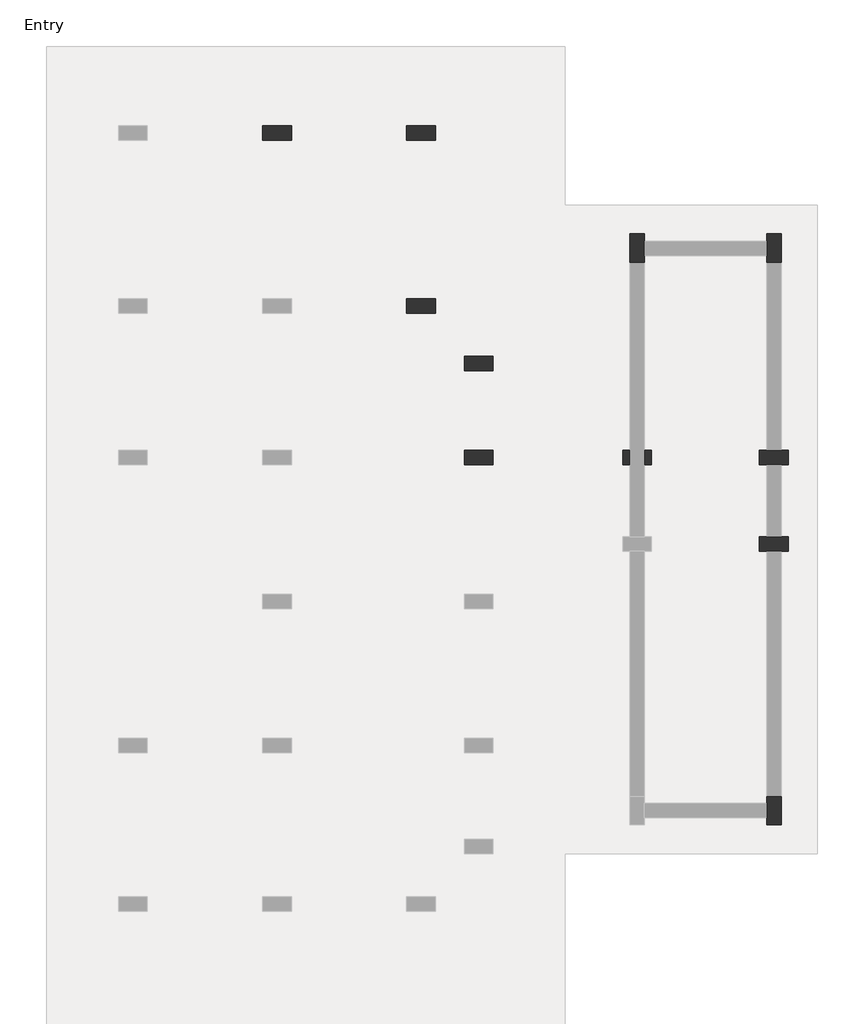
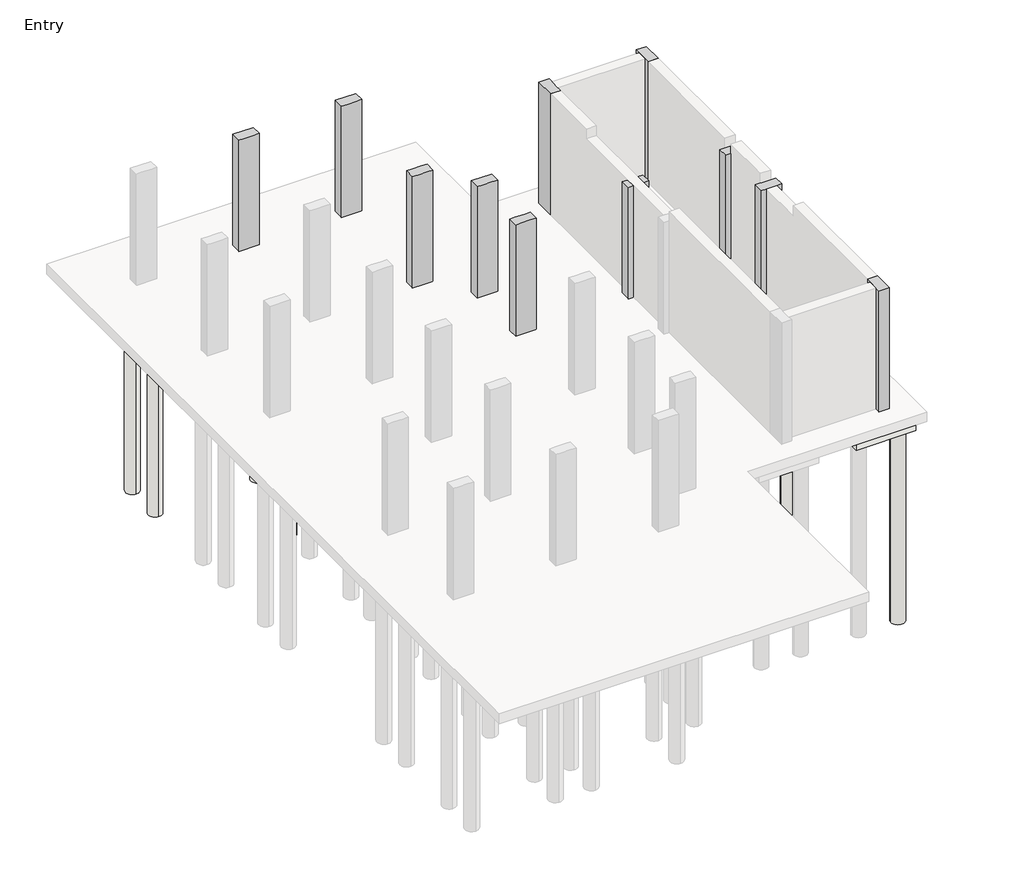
# One storey, part 3 of 3: 36 slabs, 11 columns.
"""IFC4 building model written with IfcOpenShell, lengths in millimetres."""

from ifc_helpers import new_model, si_unit, point, frame, frame_2d, origin, origin_with_axes, place, context, project, spatial, polyline, circle_curve, trimmed, segment, composite_curve, outline, extrude, faceted_brep, element, save

model = new_model("IFC4")

# Units and contexts
model_context = context("Model", 3, world=origin())
ifc_project = project(units=[si_unit("LENGTHUNIT", "METRE", prefix="MILLI")], contexts=[model_context])

# Site, building, storey
site = spatial("IfcSite", under=ifc_project)
building = spatial("IfcBuilding", under=site)
storey = spatial("IfcBuildingStorey", under=building, Name="Entry", Elevation=0.0)

# Columns
placement = place(None, origin())
element("IfcColumn", 1, ObjectType="Concrete-Rectangular-Column : 12 x 24", at=placement, inside=storey, context=model_context, shape_type="Brep", body=[
    faceted_brep([(-10423.1073204, 23769.0572372, 0.0), (-9813.5073204, 23769.0572372, 0.0), (-9813.5073204, 23464.2572372, 0.0), (-10423.1073204, 23464.2572372, 0.0), (-10423.1073204, 23769.0572372, 3505.2), (-9813.5073204, 23769.0572372, 3505.2), (-9813.5073204, 23769.0572372, 2895.6), (-10423.1073204, 23769.0572372, 2895.6), (-9813.5073204, 23464.2572372, 3505.2), (-9813.5073204, 23464.2572372, 2895.6), (-9965.9073204, 23464.2572372, 3505.2), (-10270.7073204, 23464.2572372, 3505.2), (-10423.1073204, 23464.2572372, 3505.2), (-10423.1073204, 23464.2572372, 2895.6)], [[[0, 1, 2, 3]], [[4, 5, 6, 1, 0, 7]], [[5, 8, 9, 2, 1, 6]], [[8, 10, 11, 12, 13, 3, 2, 9]], [[12, 4, 7, 0, 3, 13]], [[4, 12, 11, 10, 8, 5]]]),
])
element("IfcColumn", 2, ObjectType="Concrete-Rectangular-Column : 12 x 24", at=placement, inside=storey, context=model_context, shape_type="Brep", body=[
    faceted_brep([(-7375.1073204, 23769.0572372, 0.0), (-6765.5073204, 23769.0572372, 0.0), (-6765.5073204, 23464.2572372, 0.0), (-7375.1073204, 23464.2572372, 0.0), (-7375.1073204, 23769.0572372, 3505.2), (-6765.5073204, 23769.0572372, 3505.2), (-7375.1073204, 23769.0572372, 2895.6), (-6765.5073204, 23464.2572372, 3505.2), (-6917.9073204, 23464.2572372, 3505.2), (-7222.7073204, 23464.2572372, 3505.2), (-7375.1073204, 23464.2572372, 3505.2), (-7375.1073204, 23464.2572372, 2895.6)], [[[0, 1, 2, 3]], [[4, 5, 1, 0, 6]], [[5, 7, 2, 1]], [[7, 8, 9, 10, 11, 3, 2]], [[10, 4, 6, 0, 3, 11]], [[4, 10, 9, 8, 7, 5]]]),
])
element("IfcColumn", 3, ObjectType="Concrete-Rectangular-Column : 12 x 24", at=placement, inside=storey, context=model_context, shape_type="Brep", body=[
    faceted_brep([(-7375.1073204, 20111.4572372, 0.0), (-6765.5073204, 20111.4572372, 0.0), (-6765.5073204, 19806.6572372, 0.0), (-7375.1073204, 19806.6572372, 0.0), (-7375.1073204, 20111.4572372, 3505.2), (-7222.7073204, 20111.4572372, 3505.2), (-6917.9073204, 20111.4572372, 3505.2), (-6765.5073204, 20111.4572372, 3505.2), (-7375.1073204, 20111.4572372, 2895.6), (-6765.5073204, 19806.6572372, 3505.2), (-6917.9073204, 19806.6572372, 3505.2), (-7222.7073204, 19806.6572372, 3505.2), (-7375.1073204, 19806.6572372, 3505.2), (-7375.1073204, 19806.6572372, 2895.6)], [[[0, 1, 2, 3]], [[4, 5, 6, 7, 1, 0, 8]], [[7, 9, 2, 1]], [[9, 10, 11, 12, 13, 3, 2]], [[12, 4, 8, 0, 3, 13]], [[4, 12, 11, 10, 9, 7, 6, 5]]]),
])
element("IfcColumn", 4, ObjectType="Concrete-Rectangular-Column : 12 x 24", at=placement, inside=storey, context=model_context, shape_type="Brep", body=[
    faceted_brep([(-6156.6500241, 18892.9999409, 0.0), (-5547.0500241, 18892.9999409, 0.0), (-5547.0500241, 18588.1999409, 0.0), (-6156.6500241, 18588.1999409, 0.0), (-6156.6500241, 18892.9999409, 3505.2), (-5547.0500241, 18892.9999409, 3505.2), (-6156.6500241, 18892.9999409, 2895.6), (-5547.0500241, 18588.1999409, 3505.2), (-5699.4500241, 18588.1999409, 3505.2), (-6004.2500241, 18588.1999409, 3505.2), (-6156.6500241, 18588.1999409, 3505.2), (-6156.6500241, 18588.1999409, 2895.6)], [[[0, 1, 2, 3]], [[4, 5, 1, 0, 6]], [[5, 7, 2, 1]], [[7, 8, 9, 10, 11, 3, 2]], [[10, 4, 6, 0, 3, 11]], [[4, 10, 9, 8, 7, 5]]]),
])
element("IfcColumn", 5, ObjectType="Concrete-Rectangular-Column : 12 x 24", at=placement, inside=storey, context=model_context, shape_type="Brep", body=[
    faceted_brep([(-6156.6500241, 16911.0572372, 0.0), (-5547.0500241, 16911.0572372, 0.0), (-5547.0500241, 16606.2572372, 0.0), (-6156.6500241, 16606.2572372, 0.0), (-6156.6500241, 16911.0572372, 3505.2), (-6004.2500241, 16911.0572372, 3505.2), (-5699.4500241, 16911.0572372, 3505.2), (-5547.0500241, 16911.0572372, 3505.2), (-5547.0500241, 16911.0572372, 2895.6), (-6156.6500241, 16911.0572372, 2895.6), (-5547.0500241, 16606.2572372, 3505.2), (-5547.0500241, 16606.2572372, 2895.6), (-5699.4500241, 16606.2572372, 3505.2), (-6004.2500241, 16606.2572372, 3505.2), (-6156.6500241, 16606.2572372, 3505.2), (-6156.6500241, 16606.2572372, 2895.6)], [[[0, 1, 2, 3]], [[4, 5, 6, 7, 8, 1, 0, 9]], [[7, 10, 11, 2, 1, 8]], [[10, 12, 13, 14, 15, 3, 2, 11]], [[14, 4, 9, 0, 3, 15]], [[4, 14, 13, 12, 10, 7, 6, 5]]]),
])
element("IfcColumn", 6, ObjectType="Concrete-Rectangular-Column : 12 x 24", at=placement, inside=storey, context=model_context, shape_type="SweptSolid", body=[
    extrude(outline(polyline([(-2803.8500241, 16606.2572372), (-2803.8500241, 16911.0572372), (-2651.4500241, 16911.0572372), (-2651.4500241, 16606.2572372), (-2803.8500241, 16606.2572372)])), origin_with_axes(), (0.0, 0.0, 1.0), 3505.2),
    extrude(outline(polyline([(-2194.2500241, 16911.0572372), (-2194.2500241, 16606.2572372), (-2346.6500241, 16606.2572372), (-2346.6500241, 16911.0572372), (-2194.2500241, 16911.0572372)])), origin_with_axes(), (0.0, 0.0, 1.0), 3505.2),
])
element("IfcColumn", 7, ObjectType="Concrete-Rectangular-Column : 12 x 24", at=placement, inside=storey, context=model_context, shape_type="Brep", body=[
    faceted_brep([(89.9860546, 16911.0572372, 0.0), (242.3860546, 16911.0572372, 0.0), (547.1860546, 16911.0572372, 0.0), (699.5860546, 16911.0572372, 0.0), (699.5860546, 16606.2572372, 0.0), (547.1860546, 16606.2572372, 0.0), (242.3860546, 16606.2572372, 0.0), (89.9860546, 16606.2572372, 0.0), (89.9860546, 16911.0572372, 3505.2), (699.5860546, 16911.0572372, 3505.2), (699.5860546, 16606.2572372, 3505.2), (89.9860546, 16606.2572372, 3505.2)], [[[0, 1, 2, 3, 4, 5, 6, 7]], [[3, 2, 1, 0, 8, 9]], [[4, 3, 9, 10]], [[7, 6, 5, 4, 10, 11]], [[0, 7, 11, 8]], [[9, 8, 11, 10]]]),
])
element("IfcColumn", 8, ObjectType="Concrete-Rectangular-Column : 12 x 24", at=placement, inside=storey, context=model_context, shape_type="Brep", body=[
    faceted_brep([(89.9860546, 15082.2572372, 0.0), (242.3860546, 15082.2572372, 0.0), (547.1860546, 15082.2572372, 0.0), (699.5860546, 15082.2572372, 0.0), (699.5860546, 14777.4572372, 0.0), (547.1860546, 14777.4572372, 0.0), (242.3860546, 14777.4572372, 0.0), (89.9860546, 14777.4572372, 0.0), (89.9860546, 15082.2572372, 3505.2), (699.5860546, 15082.2572372, 3505.2), (699.5860546, 14777.4572372, 3505.2), (547.1860546, 14777.4572372, 3505.2), (242.3860546, 14777.4572372, 3505.2), (89.9860546, 14777.4572372, 3505.2)], [[[0, 1, 2, 3, 4, 5, 6, 7]], [[3, 2, 1, 0, 8, 9]], [[4, 3, 9, 10]], [[7, 6, 5, 4, 10, 11, 12, 13]], [[0, 7, 13, 8]], [[9, 8, 13, 12, 11, 10]]]),
])
element("IfcColumn", 9, ObjectType="Concrete-Rectangular-Column : 12 x 24", at=placement, inside=storey, context=model_context, shape_type="Brep", body=[
    faceted_brep([(-2346.6500241, 21483.0572372, 0.0), (-2346.6500241, 21330.6572372, 0.0), (-2346.6500241, 21025.8572372, 0.0), (-2346.6500241, 20873.4572372, 0.0), (-2651.4500241, 20873.4572372, 0.0), (-2651.4500241, 21483.0572372, 0.0), (-2346.6500241, 21483.0572372, 3810.0), (-2346.6500241, 21330.6572372, 3810.0), (-2346.6500241, 21025.8572372, 3810.0), (-2346.6500241, 20873.4572372, 3810.0), (-2651.4500241, 20873.4572372, 3810.0), (-2651.4500241, 21483.0572372, 3810.0)], [[[0, 1, 2, 3, 4, 5]], [[6, 7, 8, 9, 3, 2, 1, 0]], [[9, 10, 4, 3]], [[10, 11, 5, 4]], [[11, 6, 0, 5]], [[6, 11, 10, 9, 8, 7]]]),
])
element("IfcColumn", 10, ObjectType="Concrete-Rectangular-Column : 12 x 24", at=placement, inside=storey, context=model_context, shape_type="Brep", body=[
    faceted_brep([(547.1860546, 21483.0572372, 0.0), (547.1860546, 20873.4572372, 0.0), (242.3860546, 20873.4572372, 0.0), (242.3860546, 21025.8572372, 0.0), (242.3860546, 21330.6572372, 0.0), (242.3860546, 21483.0572372, 0.0), (547.1860546, 21483.0572372, 3810.0), (547.1860546, 20873.4572372, 3810.0), (242.3860546, 20873.4572372, 3810.0), (242.3860546, 21025.8572372, 3810.0), (242.3860546, 21330.6572372, 3810.0), (242.3860546, 21483.0572372, 3810.0)], [[[0, 1, 2, 3, 4, 5]], [[1, 0, 6, 7]], [[2, 1, 7, 8]], [[5, 4, 3, 2, 8, 9, 10, 11]], [[0, 5, 11, 6]], [[7, 6, 11, 10, 9, 8]]]),
])
element("IfcColumn", 11, ObjectType="Concrete-Rectangular-Column : 12 x 24", at=placement, inside=storey, context=model_context, shape_type="Brep", body=[
    faceted_brep([(547.1860546, 9595.8572372, 0.0), (547.1860546, 8986.2572372, 0.0), (242.3860546, 8986.2572372, 0.0), (242.3860546, 9138.6572372, 0.0), (242.3860546, 9443.4572372, 0.0), (242.3860546, 9595.8572372, 0.0), (547.1860546, 9595.8572372, 3810.0), (547.1860546, 8986.2572372, 3810.0), (242.3860546, 8986.2572372, 3810.0), (242.3860546, 9138.6572372, 3810.0), (242.3860546, 9443.4572372, 3810.0), (242.3860546, 9595.8572372, 3810.0)], [[[0, 1, 2, 3, 4, 5]], [[6, 7, 1, 0]], [[7, 8, 2, 1]], [[8, 9, 10, 11, 5, 4, 3, 2]], [[11, 6, 0, 5]], [[6, 11, 10, 9, 8, 7]]]),
])

# Slabs
element("IfcSlab", 12, ObjectType="Pile Cap-2 Pile : 31\"x61\"x35\"", at=placement, inside=storey, context=model_context, shape_type="SweptSolid", body=[
    extrude(outline(polyline([(-13572.7073204, 24505.6572372), (-12759.9073204, 24505.6572372), (-12759.9073204, 22727.6572372), (-13572.7073204, 22727.6572372), (-13572.7073204, 24505.6572372)])), frame((0.0, 0.0, -889.0), z_axis=(0.0, 0.0, 1.0), x_axis=(1.0, 0.0, 0.0)), (0.0, 0.0, 1.0), 584.2),
])
element("IfcSlab", 13, ObjectType="Pile Cap-2 Pile : 31\"x61\"x35\"", at=placement, inside=storey, context=model_context, shape_type="SweptSolid", body=[
    extrude(outline(polyline([(-7476.7073204, 20848.0572372), (-6663.9073204, 20848.0572372), (-6663.9073204, 19070.0572372), (-7476.7073204, 19070.0572372), (-7476.7073204, 20848.0572372)])), frame((0.0, 0.0, -889.0), z_axis=(0.0, 0.0, 1.0), x_axis=(1.0, 0.0, 0.0)), (0.0, 0.0, 1.0), 584.2),
])
element("IfcSlab", 14, ObjectType="Pile Cap-2 Pile : 31\"x61\"x35\"", at=placement, inside=storey, context=model_context, shape_type="SweptSolid", body=[
    extrude(outline(polyline([(-10524.7073204, 24505.6572372), (-9711.9073204, 24505.6572372), (-9711.9073204, 22727.6572372), (-10524.7073204, 22727.6572372), (-10524.7073204, 24505.6572372)])), frame((0.0, 0.0, -889.0), z_axis=(0.0, 0.0, 1.0), x_axis=(1.0, 0.0, 0.0)), (0.0, 0.0, 1.0), 584.2),
])
element("IfcSlab", 15, ObjectType="Pile Cap-2 Pile : 31\"x61\"x35\"", at=placement, inside=storey, context=model_context, shape_type="SweptSolid", body=[
    extrude(outline(polyline([(-7476.7073204, 24505.6572372), (-6663.9073204, 24505.6572372), (-6663.9073204, 22727.6572372), (-7476.7073204, 22727.6572372), (-7476.7073204, 24505.6572372)])), frame((0.0, 0.0, -889.0), z_axis=(0.0, 0.0, 1.0), x_axis=(1.0, 0.0, 0.0)), (0.0, 0.0, 1.0), 584.2),
])
element("IfcSlab", 16, ObjectType="Pile Cap-2 Pile : 31\"x61\"x35\"", at=placement, inside=storey, context=model_context, shape_type="SweptSolid", body=[
    extrude(outline(polyline([(-6258.2500241, 17647.6572372), (-5445.4500241, 17647.6572372), (-5445.4500241, 15869.6572372), (-6258.2500241, 15869.6572372), (-6258.2500241, 17647.6572372)])), frame((0.0, 0.0, -889.0), z_axis=(0.0, 0.0, 1.0), x_axis=(1.0, 0.0, 0.0)), (0.0, 0.0, 1.0), 584.2),
])
element("IfcSlab", 17, ObjectType="Pile Cap-2 Pile : 31\"x61\"x35\"", at=placement, inside=storey, context=model_context, shape_type="SweptSolid", body=[
    extrude(outline(polyline([(-1610.0500241, 21584.6572372), (-1610.0500241, 20771.8572372), (-3388.0500241, 20771.8572372), (-3388.0500241, 21584.6572372), (-1610.0500241, 21584.6572372)])), frame((0.0, 0.0, -889.0), z_axis=(0.0, 0.0, 1.0), x_axis=(1.0, 0.0, 0.0)), (0.0, 0.0, 1.0), 584.2),
])
element("IfcSlab", 18, ObjectType="Pile Cap-2 Pile : 31\"x61\"x35\"", at=placement, inside=storey, context=model_context, shape_type="SweptSolid", body=[
    extrude(outline(polyline([(1283.7860546, 21584.6572372), (1283.7860546, 20771.8572372), (-494.2139454, 20771.8572372), (-494.2139454, 21584.6572372), (1283.7860546, 21584.6572372)])), frame((0.0, 0.0, -889.0), z_axis=(0.0, 0.0, 1.0), x_axis=(1.0, 0.0, 0.0)), (0.0, 0.0, 1.0), 584.2),
])
element("IfcSlab", 19, ObjectType="Pile Cap-2 Pile : 31\"x61\"x35\"", at=placement, inside=storey, context=model_context, shape_type="SweptSolid", body=[
    extrude(outline(polyline([(-494.2139454, 16352.2572372), (-494.2139454, 17165.0572372), (1283.7860546, 17165.0572372), (1283.7860546, 16352.2572372), (-494.2139454, 16352.2572372)])), frame((0.0, 0.0, -889.0), z_axis=(0.0, 0.0, 1.0), x_axis=(1.0, 0.0, 0.0)), (0.0, 0.0, 1.0), 584.2),
])
element("IfcSlab", 20, ObjectType="Pile Cap-2 Pile : 31\"x61\"x35\"", at=placement, inside=storey, context=model_context, shape_type="SweptSolid", body=[
    extrude(outline(polyline([(-494.2139454, 14523.4572372), (-494.2139454, 15336.2572372), (1283.7860546, 15336.2572372), (1283.7860546, 14523.4572372), (-494.2139454, 14523.4572372)])), frame((0.0, 0.0, -889.0), z_axis=(0.0, 0.0, 1.0), x_axis=(1.0, 0.0, 0.0)), (0.0, 0.0, 1.0), 584.2),
])
element("IfcSlab", 21, ObjectType="Pile Cap-2 Pile : 31\"x61\"x35\"", at=placement, inside=storey, context=model_context, shape_type="SweptSolid", body=[
    extrude(outline(polyline([(-3388.0500241, 16352.2572372), (-3388.0500241, 17165.0572372), (-1610.0500241, 17165.0572372), (-1610.0500241, 16352.2572372), (-3388.0500241, 16352.2572372)])), frame((0.0, 0.0, -889.0), z_axis=(0.0, 0.0, 1.0), x_axis=(1.0, 0.0, 0.0)), (0.0, 0.0, 1.0), 584.2),
])
element("IfcSlab", 22, ObjectType="Pile Cap-2 Pile : 31\"x61\"x35\"", at=placement, inside=storey, context=model_context, shape_type="SweptSolid", body=[
    extrude(outline(polyline([(1283.7860546, 9697.4572372), (1283.7860546, 8884.6572372), (-494.2139454, 8884.6572372), (-494.2139454, 9697.4572372), (1283.7860546, 9697.4572372)])), frame((0.0, 0.0, -889.0), z_axis=(0.0, 0.0, 1.0), x_axis=(1.0, 0.0, 0.0)), (0.0, 0.0, 1.0), 584.2),
])
element("IfcSlab", 23, ObjectType="Pile Cap-2 Pile : 31\"x61\"x35\"", at=placement, inside=storey, context=model_context, shape_type="SweptSolid", body=[
    extrude(outline(polyline([(-5445.4500241, 17850.8572372), (-6258.2500241, 17850.8572372), (-6258.2500241, 19628.8572372), (-5445.4500241, 19628.8572372), (-5445.4500241, 17850.8572372)])), frame((0.0, 0.0, -889.0), z_axis=(0.0, 0.0, 1.0), x_axis=(1.0, 0.0, 0.0)), (0.0, 0.0, 1.0), 584.2),
])
element("IfcSlab", 24, ObjectType="Pile-Steel Pipe : 16\" Diameter", at=placement, inside=storey, context=model_context, shape_type="SweptSolid", body=[
    extrude(outline(composite_curve([segment(trimmed(circle_curve(frame_2d((-9584.9073204, 20492.4572372)), 203.2), [point((-9584.9073204, 20289.2572372))], [point((-9584.9073204, 20695.6572372))], False, "CARTESIAN"), True, "CONTINUOUS"), segment(trimmed(circle_curve(frame_2d((-9584.9073204, 20492.4572372)), 203.2), [point((-9584.9073204, 20695.6572372))], [point((-9584.9073204, 20289.2572372))], False, "CARTESIAN"), True, "CONTINUOUS")], self_intersect=False)), frame((0.0, 0.0, -6985.0), z_axis=(0.0, 0.0, 1.0), x_axis=(1.0, 0.0, 0.0)), (0.0, 0.0, 1.0), 6096.0),
])
element("IfcSlab", 25, ObjectType="Pile-Steel Pipe : 16\" Diameter", at=placement, inside=storey, context=model_context, shape_type="SweptSolid", body=[
    extrude(outline(composite_curve([segment(trimmed(circle_curve(frame_2d((-10651.7073204, 20492.4572372)), 203.2), [point((-10651.7073204, 20289.2572372))], [point((-10651.7073204, 20695.6572372))], False, "CARTESIAN"), True, "CONTINUOUS"), segment(trimmed(circle_curve(frame_2d((-10651.7073204, 20492.4572372)), 203.2), [point((-10651.7073204, 20695.6572372))], [point((-10651.7073204, 20289.2572372))], False, "CARTESIAN"), True, "CONTINUOUS")], self_intersect=False)), frame((0.0, 0.0, -6985.0), z_axis=(0.0, 0.0, 1.0), x_axis=(1.0, 0.0, 0.0)), (0.0, 0.0, 1.0), 6096.0),
])
element("IfcSlab", 26, ObjectType="Pile-Steel Pipe : 16\" Diameter", at=placement, inside=storey, context=model_context, shape_type="SweptSolid", body=[
    extrude(outline(composite_curve([segment(trimmed(circle_curve(frame_2d((-13166.3073204, 23032.4572372)), 203.2), [point((-13166.3073204, 22829.2572372))], [point((-13166.3073204, 23235.6572372))], False, "CARTESIAN"), True, "CONTINUOUS"), segment(trimmed(circle_curve(frame_2d((-13166.3073204, 23032.4572372)), 203.2), [point((-13166.3073204, 23235.6572372))], [point((-13166.3073204, 22829.2572372))], False, "CARTESIAN"), True, "CONTINUOUS")], self_intersect=False)), frame((0.0, 0.0, -6985.0), z_axis=(0.0, 0.0, 1.0), x_axis=(1.0, 0.0, 0.0)), (0.0, 0.0, 1.0), 6096.0),
])
element("IfcSlab", 27, ObjectType="Pile-Steel Pipe : 16\" Diameter", at=placement, inside=storey, context=model_context, shape_type="SweptSolid", body=[
    extrude(outline(composite_curve([segment(trimmed(circle_curve(frame_2d((-13166.3073204, 24200.8572372)), 203.2), [point((-13166.3073204, 23997.6572372))], [point((-13166.3073204, 24404.0572372))], False, "CARTESIAN"), True, "CONTINUOUS"), segment(trimmed(circle_curve(frame_2d((-13166.3073204, 24200.8572372)), 203.2), [point((-13166.3073204, 24404.0572372))], [point((-13166.3073204, 23997.6572372))], False, "CARTESIAN"), True, "CONTINUOUS")], self_intersect=False)), frame((0.0, 0.0, -6985.0), z_axis=(0.0, 0.0, 1.0), x_axis=(1.0, 0.0, 0.0)), (0.0, 0.0, 1.0), 6096.0),
])
element("IfcSlab", 28, ObjectType="Pile-Steel Pipe : 16\" Diameter", at=placement, inside=storey, context=model_context, shape_type="SweptSolid", body=[
    extrude(outline(composite_curve([segment(trimmed(circle_curve(frame_2d((-7070.3073204, 19374.8572372)), 203.2), [point((-7070.3073204, 19171.6572372))], [point((-7070.3073204, 19578.0572372))], False, "CARTESIAN"), True, "CONTINUOUS"), segment(trimmed(circle_curve(frame_2d((-7070.3073204, 19374.8572372)), 203.2), [point((-7070.3073204, 19578.0572372))], [point((-7070.3073204, 19171.6572372))], False, "CARTESIAN"), True, "CONTINUOUS")], self_intersect=False)), frame((0.0, 0.0, -6985.0), z_axis=(0.0, 0.0, 1.0), x_axis=(1.0, 0.0, 0.0)), (0.0, 0.0, 1.0), 6096.0),
])
element("IfcSlab", 29, ObjectType="Pile-Steel Pipe : 16\" Diameter", at=placement, inside=storey, context=model_context, shape_type="SweptSolid", body=[
    extrude(outline(composite_curve([segment(trimmed(circle_curve(frame_2d((-7070.3073204, 20543.2572372)), 203.2), [point((-7070.3073204, 20340.0572372))], [point((-7070.3073204, 20746.4572372))], False, "CARTESIAN"), True, "CONTINUOUS"), segment(trimmed(circle_curve(frame_2d((-7070.3073204, 20543.2572372)), 203.2), [point((-7070.3073204, 20746.4572372))], [point((-7070.3073204, 20340.0572372))], False, "CARTESIAN"), True, "CONTINUOUS")], self_intersect=False)), frame((0.0, 0.0, -6985.0), z_axis=(0.0, 0.0, 1.0), x_axis=(1.0, 0.0, 0.0)), (0.0, 0.0, 1.0), 6096.0),
])
element("IfcSlab", 30, ObjectType="Pile-Steel Pipe : 16\" Diameter", at=placement, inside=storey, context=model_context, shape_type="SweptSolid", body=[
    extrude(outline(composite_curve([segment(trimmed(circle_curve(frame_2d((-10118.3073204, 23032.4572372)), 203.2), [point((-10118.3073204, 22829.2572372))], [point((-10118.3073204, 23235.6572372))], False, "CARTESIAN"), True, "CONTINUOUS"), segment(trimmed(circle_curve(frame_2d((-10118.3073204, 23032.4572372)), 203.2), [point((-10118.3073204, 23235.6572372))], [point((-10118.3073204, 22829.2572372))], False, "CARTESIAN"), True, "CONTINUOUS")], self_intersect=False)), frame((0.0, 0.0, -6985.0), z_axis=(0.0, 0.0, 1.0), x_axis=(1.0, 0.0, 0.0)), (0.0, 0.0, 1.0), 6096.0),
])
element("IfcSlab", 31, ObjectType="Pile-Steel Pipe : 16\" Diameter", at=placement, inside=storey, context=model_context, shape_type="SweptSolid", body=[
    extrude(outline(composite_curve([segment(trimmed(circle_curve(frame_2d((-10118.3073204, 24200.8572372)), 203.2), [point((-10118.3073204, 23997.6572372))], [point((-10118.3073204, 24404.0572372))], False, "CARTESIAN"), True, "CONTINUOUS"), segment(trimmed(circle_curve(frame_2d((-10118.3073204, 24200.8572372)), 203.2), [point((-10118.3073204, 24404.0572372))], [point((-10118.3073204, 23997.6572372))], False, "CARTESIAN"), True, "CONTINUOUS")], self_intersect=False)), frame((0.0, 0.0, -6985.0), z_axis=(0.0, 0.0, 1.0), x_axis=(1.0, 0.0, 0.0)), (0.0, 0.0, 1.0), 6096.0),
])
element("IfcSlab", 32, ObjectType="Pile-Steel Pipe : 16\" Diameter", at=placement, inside=storey, context=model_context, shape_type="SweptSolid", body=[
    extrude(outline(composite_curve([segment(trimmed(circle_curve(frame_2d((-7070.3073204, 23032.4572372)), 203.2), [point((-7070.3073204, 22829.2572372))], [point((-7070.3073204, 23235.6572372))], False, "CARTESIAN"), True, "CONTINUOUS"), segment(trimmed(circle_curve(frame_2d((-7070.3073204, 23032.4572372)), 203.2), [point((-7070.3073204, 23235.6572372))], [point((-7070.3073204, 22829.2572372))], False, "CARTESIAN"), True, "CONTINUOUS")], self_intersect=False)), frame((0.0, 0.0, -6985.0), z_axis=(0.0, 0.0, 1.0), x_axis=(1.0, 0.0, 0.0)), (0.0, 0.0, 1.0), 6096.0),
])
element("IfcSlab", 33, ObjectType="Pile-Steel Pipe : 16\" Diameter", at=placement, inside=storey, context=model_context, shape_type="SweptSolid", body=[
    extrude(outline(composite_curve([segment(trimmed(circle_curve(frame_2d((-7070.3073204, 24200.8572372)), 203.2), [point((-7070.3073204, 23997.6572372))], [point((-7070.3073204, 24404.0572372))], False, "CARTESIAN"), True, "CONTINUOUS"), segment(trimmed(circle_curve(frame_2d((-7070.3073204, 24200.8572372)), 203.2), [point((-7070.3073204, 24404.0572372))], [point((-7070.3073204, 23997.6572372))], False, "CARTESIAN"), True, "CONTINUOUS")], self_intersect=False)), frame((0.0, 0.0, -6985.0), z_axis=(0.0, 0.0, 1.0), x_axis=(1.0, 0.0, 0.0)), (0.0, 0.0, 1.0), 6096.0),
])
element("IfcSlab", 34, ObjectType="Pile-Steel Pipe : 16\" Diameter", at=placement, inside=storey, context=model_context, shape_type="SweptSolid", body=[
    extrude(outline(composite_curve([segment(trimmed(circle_curve(frame_2d((-5851.8500241, 16174.4572372)), 203.2), [point((-5851.8500241, 15971.2572372))], [point((-5851.8500241, 16377.6572372))], False, "CARTESIAN"), True, "CONTINUOUS"), segment(trimmed(circle_curve(frame_2d((-5851.8500241, 16174.4572372)), 203.2), [point((-5851.8500241, 16377.6572372))], [point((-5851.8500241, 15971.2572372))], False, "CARTESIAN"), True, "CONTINUOUS")], self_intersect=False)), frame((0.0, 0.0, -6985.0), z_axis=(0.0, 0.0, 1.0), x_axis=(1.0, 0.0, 0.0)), (0.0, 0.0, 1.0), 6096.0),
])
element("IfcSlab", 35, ObjectType="Pile-Steel Pipe : 16\" Diameter", at=placement, inside=storey, context=model_context, shape_type="SweptSolid", body=[
    extrude(outline(composite_curve([segment(trimmed(circle_curve(frame_2d((-5851.8500241, 17342.8572372)), 203.2), [point((-5851.8500241, 17139.6572372))], [point((-5851.8500241, 17546.0572372))], False, "CARTESIAN"), True, "CONTINUOUS"), segment(trimmed(circle_curve(frame_2d((-5851.8500241, 17342.8572372)), 203.2), [point((-5851.8500241, 17546.0572372))], [point((-5851.8500241, 17139.6572372))], False, "CARTESIAN"), True, "CONTINUOUS")], self_intersect=False)), frame((0.0, 0.0, -6985.0), z_axis=(0.0, 0.0, 1.0), x_axis=(1.0, 0.0, 0.0)), (0.0, 0.0, 1.0), 6096.0),
])
element("IfcSlab", 36, ObjectType="Pile-Steel Pipe : 16\" Diameter", at=placement, inside=storey, context=model_context, shape_type="SweptSolid", body=[
    extrude(outline(composite_curve([segment(trimmed(circle_curve(frame_2d((-3083.2500241, 21178.2572372)), 203.2), [point((-3286.4500241, 21178.2572372))], [point((-2880.0500241, 21178.2572372))], False, "CARTESIAN"), True, "CONTINUOUS"), segment(trimmed(circle_curve(frame_2d((-3083.2500241, 21178.2572372)), 203.2), [point((-2880.0500241, 21178.2572372))], [point((-3286.4500241, 21178.2572372))], False, "CARTESIAN"), True, "CONTINUOUS")], self_intersect=False)), frame((0.0, 0.0, -6985.0), z_axis=(0.0, 0.0, 1.0), x_axis=(1.0, 0.0, 0.0)), (0.0, 0.0, 1.0), 6096.0),
])
element("IfcSlab", 37, ObjectType="Pile-Steel Pipe : 16\" Diameter", at=placement, inside=storey, context=model_context, shape_type="SweptSolid", body=[
    extrude(outline(composite_curve([segment(trimmed(circle_curve(frame_2d((-1914.8500241, 21178.2572372)), 203.2), [point((-2118.0500241, 21178.2572372))], [point((-1711.6500241, 21178.2572372))], False, "CARTESIAN"), True, "CONTINUOUS"), segment(trimmed(circle_curve(frame_2d((-1914.8500241, 21178.2572372)), 203.2), [point((-1711.6500241, 21178.2572372))], [point((-2118.0500241, 21178.2572372))], False, "CARTESIAN"), True, "CONTINUOUS")], self_intersect=False)), frame((0.0, 0.0, -6985.0), z_axis=(0.0, 0.0, 1.0), x_axis=(1.0, 0.0, 0.0)), (0.0, 0.0, 1.0), 6096.0),
])
element("IfcSlab", 38, ObjectType="Pile-Steel Pipe : 16\" Diameter", at=placement, inside=storey, context=model_context, shape_type="SweptSolid", body=[
    extrude(outline(composite_curve([segment(trimmed(circle_curve(frame_2d((-189.4139454, 21178.2572372)), 203.2), [point((-392.6139454, 21178.2572372))], [point((13.7860546, 21178.2572372))], False, "CARTESIAN"), True, "CONTINUOUS"), segment(trimmed(circle_curve(frame_2d((-189.4139454, 21178.2572372)), 203.2), [point((13.7860546, 21178.2572372))], [point((-392.6139454, 21178.2572372))], False, "CARTESIAN"), True, "CONTINUOUS")], self_intersect=False)), frame((0.0, 0.0, -6985.0), z_axis=(0.0, 0.0, 1.0), x_axis=(1.0, 0.0, 0.0)), (0.0, 0.0, 1.0), 6096.0),
])
element("IfcSlab", 39, ObjectType="Pile-Steel Pipe : 16\" Diameter", at=placement, inside=storey, context=model_context, shape_type="SweptSolid", body=[
    extrude(outline(composite_curve([segment(trimmed(circle_curve(frame_2d((978.9860546, 21178.2572372)), 203.2), [point((775.7860546, 21178.2572372))], [point((1182.1860546, 21178.2572372))], False, "CARTESIAN"), True, "CONTINUOUS"), segment(trimmed(circle_curve(frame_2d((978.9860546, 21178.2572372)), 203.2), [point((1182.1860546, 21178.2572372))], [point((775.7860546, 21178.2572372))], False, "CARTESIAN"), True, "CONTINUOUS")], self_intersect=False)), frame((0.0, 0.0, -6985.0), z_axis=(0.0, 0.0, 1.0), x_axis=(1.0, 0.0, 0.0)), (0.0, 0.0, 1.0), 6096.0),
])
element("IfcSlab", 40, ObjectType="Pile-Steel Pipe : 16\" Diameter", at=placement, inside=storey, context=model_context, shape_type="SweptSolid", body=[
    extrude(outline(composite_curve([segment(trimmed(circle_curve(frame_2d((978.9860546, 16758.6572372)), 203.2), [point((1182.1860546, 16758.6572372))], [point((775.7860546, 16758.6572372))], False, "CARTESIAN"), True, "CONTINUOUS"), segment(trimmed(circle_curve(frame_2d((978.9860546, 16758.6572372)), 203.2), [point((775.7860546, 16758.6572372))], [point((1182.1860546, 16758.6572372))], False, "CARTESIAN"), True, "CONTINUOUS")], self_intersect=False)), frame((0.0, 0.0, -6985.0), z_axis=(0.0, 0.0, 1.0), x_axis=(1.0, 0.0, 0.0)), (0.0, 0.0, 1.0), 6096.0),
])
element("IfcSlab", 41, ObjectType="Pile-Steel Pipe : 16\" Diameter", at=placement, inside=storey, context=model_context, shape_type="SweptSolid", body=[
    extrude(outline(composite_curve([segment(trimmed(circle_curve(frame_2d((-189.4139454, 16758.6572372)), 203.2), [point((13.7860546, 16758.6572372))], [point((-392.6139454, 16758.6572372))], False, "CARTESIAN"), True, "CONTINUOUS"), segment(trimmed(circle_curve(frame_2d((-189.4139454, 16758.6572372)), 203.2), [point((-392.6139454, 16758.6572372))], [point((13.7860546, 16758.6572372))], False, "CARTESIAN"), True, "CONTINUOUS")], self_intersect=False)), frame((0.0, 0.0, -6985.0), z_axis=(0.0, 0.0, 1.0), x_axis=(1.0, 0.0, 0.0)), (0.0, 0.0, 1.0), 6096.0),
])
element("IfcSlab", 42, ObjectType="Pile-Steel Pipe : 16\" Diameter", at=placement, inside=storey, context=model_context, shape_type="SweptSolid", body=[
    extrude(outline(composite_curve([segment(trimmed(circle_curve(frame_2d((978.9860546, 14929.8572372)), 203.2), [point((1182.1860546, 14929.8572372))], [point((775.7860546, 14929.8572372))], False, "CARTESIAN"), True, "CONTINUOUS"), segment(trimmed(circle_curve(frame_2d((978.9860546, 14929.8572372)), 203.2), [point((775.7860546, 14929.8572372))], [point((1182.1860546, 14929.8572372))], False, "CARTESIAN"), True, "CONTINUOUS")], self_intersect=False)), frame((0.0, 0.0, -6985.0), z_axis=(0.0, 0.0, 1.0), x_axis=(1.0, 0.0, 0.0)), (0.0, 0.0, 1.0), 6096.0),
])
element("IfcSlab", 43, ObjectType="Pile-Steel Pipe : 16\" Diameter", at=placement, inside=storey, context=model_context, shape_type="SweptSolid", body=[
    extrude(outline(composite_curve([segment(trimmed(circle_curve(frame_2d((-1914.8500241, 16758.6572372)), 203.2), [point((-1711.6500241, 16758.6572372))], [point((-2118.0500241, 16758.6572372))], False, "CARTESIAN"), True, "CONTINUOUS"), segment(trimmed(circle_curve(frame_2d((-1914.8500241, 16758.6572372)), 203.2), [point((-2118.0500241, 16758.6572372))], [point((-1711.6500241, 16758.6572372))], False, "CARTESIAN"), True, "CONTINUOUS")], self_intersect=False)), frame((0.0, 0.0, -6985.0), z_axis=(0.0, 0.0, 1.0), x_axis=(1.0, 0.0, 0.0)), (0.0, 0.0, 1.0), 6096.0),
])
element("IfcSlab", 44, ObjectType="Pile-Steel Pipe : 16\" Diameter", at=placement, inside=storey, context=model_context, shape_type="SweptSolid", body=[
    extrude(outline(composite_curve([segment(trimmed(circle_curve(frame_2d((-3083.2500241, 16758.6572372)), 203.2), [point((-2880.0500241, 16758.6572372))], [point((-3286.4500241, 16758.6572372))], False, "CARTESIAN"), True, "CONTINUOUS"), segment(trimmed(circle_curve(frame_2d((-3083.2500241, 16758.6572372)), 203.2), [point((-3286.4500241, 16758.6572372))], [point((-2880.0500241, 16758.6572372))], False, "CARTESIAN"), True, "CONTINUOUS")], self_intersect=False)), frame((0.0, 0.0, -6985.0), z_axis=(0.0, 0.0, 1.0), x_axis=(1.0, 0.0, 0.0)), (0.0, 0.0, 1.0), 6096.0),
])
element("IfcSlab", 45, ObjectType="Pile-Steel Pipe : 16\" Diameter", at=placement, inside=storey, context=model_context, shape_type="SweptSolid", body=[
    extrude(outline(composite_curve([segment(trimmed(circle_curve(frame_2d((978.9860546, 9291.0572372)), 203.2), [point((775.7860546, 9291.0572372))], [point((1182.1860546, 9291.0572372))], False, "CARTESIAN"), True, "CONTINUOUS"), segment(trimmed(circle_curve(frame_2d((978.9860546, 9291.0572372)), 203.2), [point((1182.1860546, 9291.0572372))], [point((775.7860546, 9291.0572372))], False, "CARTESIAN"), True, "CONTINUOUS")], self_intersect=False)), frame((0.0, 0.0, -6985.0), z_axis=(0.0, 0.0, 1.0), x_axis=(1.0, 0.0, 0.0)), (0.0, 0.0, 1.0), 6096.0),
])
element("IfcSlab", 46, ObjectType="Pile-Steel Pipe : 16\" Diameter", at=placement, inside=storey, context=model_context, shape_type="SweptSolid", body=[
    extrude(outline(composite_curve([segment(trimmed(circle_curve(frame_2d((-5851.8500241, 19324.0572372)), 203.2), [point((-5851.8500241, 19527.2572372))], [point((-5851.8500241, 19120.8572372))], False, "CARTESIAN"), True, "CONTINUOUS"), segment(trimmed(circle_curve(frame_2d((-5851.8500241, 19324.0572372)), 203.2), [point((-5851.8500241, 19120.8572372))], [point((-5851.8500241, 19527.2572372))], False, "CARTESIAN"), True, "CONTINUOUS")], self_intersect=False)), frame((0.0, 0.0, -6985.0), z_axis=(0.0, 0.0, 1.0), x_axis=(1.0, 0.0, 0.0)), (0.0, 0.0, 1.0), 6096.0),
])
element("IfcSlab", 47, ObjectType="Pile-Steel Pipe : 16\" Diameter", at=placement, inside=storey, context=model_context, shape_type="SweptSolid", body=[
    extrude(outline(composite_curve([segment(trimmed(circle_curve(frame_2d((-5851.8500241, 18155.6572372)), 203.2), [point((-5851.8500241, 18358.8572372))], [point((-5851.8500241, 17952.4572372))], False, "CARTESIAN"), True, "CONTINUOUS"), segment(trimmed(circle_curve(frame_2d((-5851.8500241, 18155.6572372)), 203.2), [point((-5851.8500241, 17952.4572372))], [point((-5851.8500241, 18358.8572372))], False, "CARTESIAN"), True, "CONTINUOUS")], self_intersect=False)), frame((0.0, 0.0, -6985.0), z_axis=(0.0, 0.0, 1.0), x_axis=(1.0, 0.0, 0.0)), (0.0, 0.0, 1.0), 6096.0),
])

save(model, "model.ifc")
